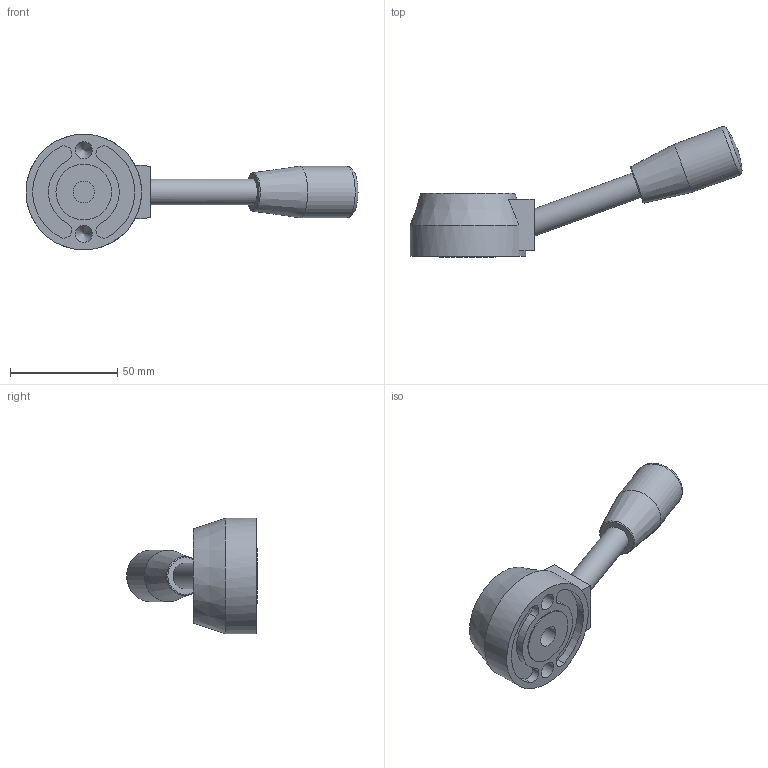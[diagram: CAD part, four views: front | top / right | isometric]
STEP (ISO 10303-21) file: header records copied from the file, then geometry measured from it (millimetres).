
FILE_DESCRIPTION( ( 'STEP AP203' ), '1' );
FILE_NAME( 'C:/Temp/Ganter_Step_05_03_2020/data/2_1/gn_512/gn_512_b/Control lever GN 512-54-B10.stp', '2020-03-05T11:51:37', ( 'License CC BY-ND 4.0' ), ( 'CADENAS' ), ' ', 'PARTsolutions', ' ' );
FILE_SCHEMA( ( 'CONFIG_CONTROL_DESIGN' ) );
Length unit declared in the file: millimetre
Products named in the file (1): _Control lever GN 512-54-B10
Bounding box: 155.09 x 61.04 x 54 mm (x, y, z)
Volume: 83594.4 mm3; surface area: 18001.6 mm2
Topology: 1 solids, 1 shells, 36 faces, 81 edges, 53 vertices
Faces by surface type: cylinder 16, plane 13, cone 4, torus 2, sphere 1
Full cylindrical faces by diameter (mm): 8 x2, 10 x1, 12 x1, 24 x1, 26 x1, 31 x1, 54 x1
Entity records: 930 total; most frequent: DIRECTION 168, CARTESIAN_POINT 149, ORIENTED_EDGE 116, AXIS2_PLACEMENT_3D 75, EDGE_CURVE 58, EDGE_LOOP 57, VERTEX_POINT 48, FACE_OUTER_BOUND 46
